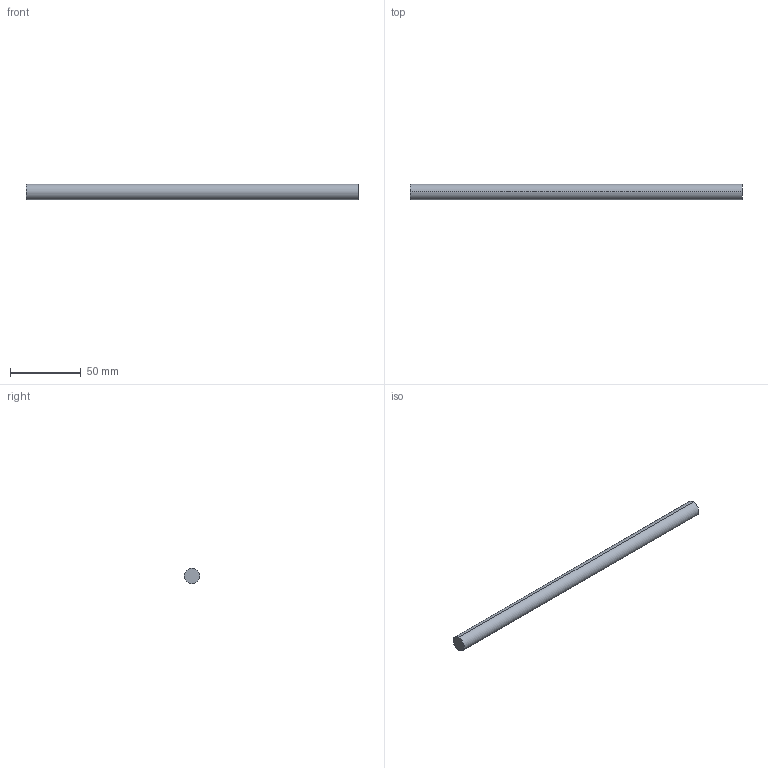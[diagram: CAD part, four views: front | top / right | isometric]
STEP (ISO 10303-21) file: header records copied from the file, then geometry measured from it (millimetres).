
FILE_DESCRIPTION (( 'STEP AP214' ), '1' );
FILE_NAME ('Querreling_Frontblende_Innenlade_KS-19_25mm-Halter_KAB-350.step', '2010-09-22T15:05:42', ( 'grass' ), ( '' ), 'SwSTEP 2.0', 'SolidWorks 2010', '' );
FILE_SCHEMA (( 'AUTOMOTIVE_DESIGN' ));
Length unit declared in the file: millimetre
Products named in the file (1): Querreling_Frontblende_Innenlade_KS-19_25mm-Halter_KAB-350
Bounding box: 234 x 11 x 11 mm (x, y, z)
Volume: 22237.8 mm3; surface area: 8276.5 mm2
Topology: 1 solids, 1 shells, 4 faces, 6 edges, 4 vertices
Faces by surface type: cylinder 2, plane 2
Entity records: 128 total; most frequent: DIRECTION 20, CARTESIAN_POINT 15, ORIENTED_EDGE 12, AXIS2_PLACEMENT_3D 9, EDGE_CURVE 6, EDGE_LOOP 4, CIRCLE 4, FACE_OUTER_BOUND 4
